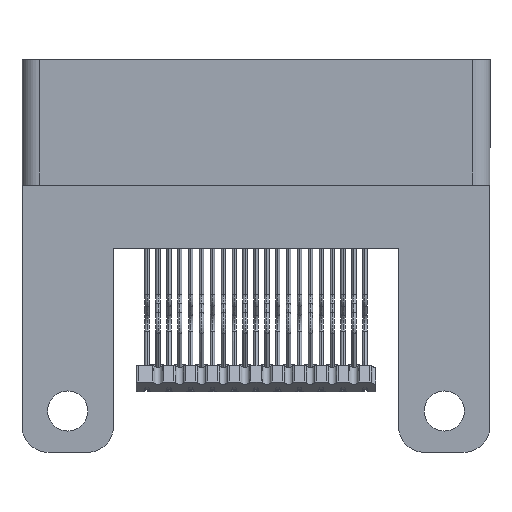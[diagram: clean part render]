
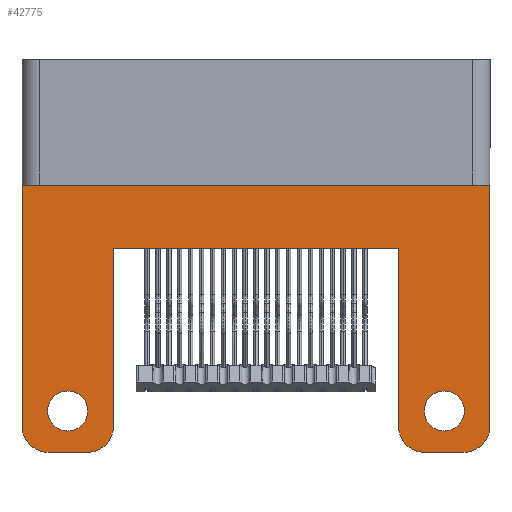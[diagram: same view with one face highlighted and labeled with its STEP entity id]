
A CAD part, front view. The second image highlights one B-rep face of the part: STEP entity #42775.
In plain terms, the highlighted planar face has unit normal (0, -1, 0).
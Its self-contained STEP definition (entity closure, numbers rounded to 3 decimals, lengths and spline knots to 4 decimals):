
#546 = FACE_BOUND ( 'NONE', #25721, .T. ) ;
#568 = FACE_BOUND ( 'NONE', #24560, .T. ) ;
#577 = FACE_OUTER_BOUND ( 'NONE', #25632, .T. ) ;
#1631 = CARTESIAN_POINT ( 'NONE',  ( 0.3275, -0.17, -0.053 ) ) ;
#1632 = DIRECTION ( 'NONE',  ( 1., 0., 0. ) ) ;
#1635 = CARTESIAN_POINT ( 'NONE',  ( -0.4775, -0.17, -0.607 ) ) ;
#1636 = DIRECTION ( 'NONE',  ( 0., -1., 0. ) ) ;
#1637 = DIRECTION ( 'NONE',  ( 0., 0., -1. ) ) ;
#1678 = CARTESIAN_POINT ( 'NONE',  ( -0.5375, -0.17, -0.667 ) ) ;
#1681 = CARTESIAN_POINT ( 'NONE',  ( 0.5375, -0.17, -0.667 ) ) ;
#1683 = CARTESIAN_POINT ( 'NONE',  ( -0.3275, -0.17, -0.667 ) ) ;
#1684 = DIRECTION ( 'NONE',  ( 0., 0., 1. ) ) ;
#1690 = DIRECTION ( 'NONE',  ( 0., 0., 1. ) ) ;
#4257 = VERTEX_POINT ( 'NONE', #6915 ) ;
#4273 = VERTEX_POINT ( 'NONE', #6941 ) ;
#4293 = VERTEX_POINT ( 'NONE', #6973 ) ;
#4312 = VERTEX_POINT ( 'NONE', #7003 ) ;
#4535 = CIRCLE ( 'NONE', #11639, 0.046 ) ;
#4549 = CIRCLE ( 'NONE', #11641, 0.046 ) ;
#6477 = CARTESIAN_POINT ( 'NONE',  ( 0.4325, -0.17, -0.572 ) ) ;
#6478 = DIRECTION ( 'NONE',  ( 0., 1., 0. ) ) ;
#6479 = DIRECTION ( 'NONE',  ( -1., 0., 0. ) ) ;
#6495 = CARTESIAN_POINT ( 'NONE',  ( -0.4325, -0.17, -0.572 ) ) ;
#6496 = DIRECTION ( 'NONE',  ( 0., 1., 0. ) ) ;
#6497 = DIRECTION ( 'NONE',  ( -1., 0., 0. ) ) ;
#6915 = CARTESIAN_POINT ( 'NONE',  ( -0.4785, -0.17, -0.572 ) ) ;
#6941 = CARTESIAN_POINT ( 'NONE',  ( 0.3865, -0.17, -0.572 ) ) ;
#6973 = CARTESIAN_POINT ( 'NONE',  ( -0.3865, -0.17, -0.572 ) ) ;
#7003 = CARTESIAN_POINT ( 'NONE',  ( 0.4785, -0.17, -0.572 ) ) ;
#11639 = AXIS2_PLACEMENT_3D ( 'NONE', #6477, #6478, #6479 ) ;
#11641 = AXIS2_PLACEMENT_3D ( 'NONE', #6495, #6496, #6497 ) ;
#14506 = EDGE_CURVE ( 'NONE', #42571, #42578, #21200, .T. ) ;
#14507 = EDGE_CURVE ( 'NONE', #42576, #42888, #21203, .T. ) ;
#14529 = EDGE_CURVE ( 'NONE', #42889, #42550, #21277, .T. ) ;
#14532 = EDGE_CURVE ( 'NONE', #42576, #42571, #21273, .T. ) ;
#14533 = EDGE_CURVE ( 'NONE', #42556, #42550, #21292, .T. ) ;
#14534 = EDGE_CURVE ( 'NONE', #42882, #42556, #21296, .T. ) ;
#14535 = EDGE_CURVE ( 'NONE', #42867, #42578, #21288, .T. ) ;
#15088 = AXIS2_PLACEMENT_3D ( 'NONE', #1635, #1636, #1637 ) ;
#17056 = CARTESIAN_POINT ( 'NONE',  ( -0.4325, -0.17, -0.572 ) ) ;
#17057 = DIRECTION ( 'NONE',  ( 0., 1., 0. ) ) ;
#17058 = DIRECTION ( 'NONE',  ( -1., 0., 0. ) ) ;
#17062 = CARTESIAN_POINT ( 'NONE',  ( 0.3275, -0.17, -0.667 ) ) ;
#17063 = DIRECTION ( 'NONE',  ( 1., 0., 0. ) ) ;
#17064 = CARTESIAN_POINT ( 'NONE',  ( 0.4325, -0.17, -0.572 ) ) ;
#17065 = DIRECTION ( 'NONE',  ( 0., 1., 0. ) ) ;
#17066 = DIRECTION ( 'NONE',  ( -1., 0., 0. ) ) ;
#17079 = CARTESIAN_POINT ( 'NONE',  ( -0.3875, -0.17, -0.607 ) ) ;
#17080 = DIRECTION ( 'NONE',  ( 0., -1., 0. ) ) ;
#17081 = DIRECTION ( 'NONE',  ( 0., 0., -1. ) ) ;
#17088 = CARTESIAN_POINT ( 'NONE',  ( -0.3275, -0.17, -0.667 ) ) ;
#17089 = DIRECTION ( 'NONE',  ( -1., 0., 0. ) ) ;
#17096 = CARTESIAN_POINT ( 'NONE',  ( 0.3875, -0.17, -0.607 ) ) ;
#17097 = DIRECTION ( 'NONE',  ( 0., -1., 0. ) ) ;
#17098 = DIRECTION ( 'NONE',  ( 0., 0., -1. ) ) ;
#17117 = CARTESIAN_POINT ( 'NONE',  ( 0.4775, -0.17, -0.607 ) ) ;
#17118 = DIRECTION ( 'NONE',  ( 0., -1., 0. ) ) ;
#17119 = DIRECTION ( 'NONE',  ( 0., 0., -1. ) ) ;
#20687 = AXIS2_PLACEMENT_3D ( 'NONE', #17056, #17057, #17058 ) ;
#20691 = AXIS2_PLACEMENT_3D ( 'NONE', #17064, #17065, #17066 ) ;
#20696 = AXIS2_PLACEMENT_3D ( 'NONE', #17079, #17080, #17081 ) ;
#20700 = AXIS2_PLACEMENT_3D ( 'NONE', #17096, #17097, #17098 ) ;
#20706 = AXIS2_PLACEMENT_3D ( 'NONE', #17117, #17118, #17119 ) ;
#21200 = LINE ( 'NONE', #1631, #21205 ) ;
#21203 = CIRCLE ( 'NONE', #15088, 0.06 ) ;
#21205 = VECTOR ( 'NONE', #1632, 39.3701 ) ;
#21273 = LINE ( 'NONE', #1678, #21294 ) ;
#21277 = LINE ( 'NONE', #1683, #21282 ) ;
#21282 = VECTOR ( 'NONE', #1684, 39.3701 ) ;
#21288 = LINE ( 'NONE', #1681, #21308 ) ;
#21292 = LINE ( 'NONE', #33569, #21298 ) ;
#21294 = VECTOR ( 'NONE', #1690, 39.3701 ) ;
#21296 = LINE ( 'NONE', #33573, #21303 ) ;
#21298 = VECTOR ( 'NONE', #33572, 39.3701 ) ;
#21303 = VECTOR ( 'NONE', #33577, 39.3701 ) ;
#21308 = VECTOR ( 'NONE', #33579, 39.3701 ) ;
#21657 = AXIS2_PLACEMENT_3D ( 'NONE', #44400, #44402, #44403 ) ;
#21965 = ORIENTED_EDGE ( 'NONE', *, *, #14532, .F. ) ;
#21966 = ORIENTED_EDGE ( 'NONE', *, *, #14507, .T. ) ;
#21967 = ORIENTED_EDGE ( 'NONE', *, *, #34513, .F. ) ;
#21969 = ORIENTED_EDGE ( 'NONE', *, *, #34509, .T. ) ;
#21971 = ORIENTED_EDGE ( 'NONE', *, *, #14529, .T. ) ;
#21973 = ORIENTED_EDGE ( 'NONE', *, *, #14533, .F. ) ;
#21974 = ORIENTED_EDGE ( 'NONE', *, *, #14534, .F. ) ;
#21977 = ORIENTED_EDGE ( 'NONE', *, *, #34516, .T. ) ;
#21979 = ORIENTED_EDGE ( 'NONE', *, *, #34505, .T. ) ;
#21981 = ORIENTED_EDGE ( 'NONE', *, *, #34526, .T. ) ;
#21983 = ORIENTED_EDGE ( 'NONE', *, *, #14535, .T. ) ;
#21985 = ORIENTED_EDGE ( 'NONE', *, *, #14506, .F. ) ;
#21987 = ORIENTED_EDGE ( 'NONE', *, *, #34503, .T. ) ;
#21989 = ORIENTED_EDGE ( 'NONE', *, *, #30503, .T. ) ;
#21991 = ORIENTED_EDGE ( 'NONE', *, *, #34500, .T. ) ;
#21993 = ORIENTED_EDGE ( 'NONE', *, *, #30511, .T. ) ;
#23145 = CARTESIAN_POINT ( 'NONE',  ( -0.3275, -0.17, -0.198 ) ) ;
#24560 = EDGE_LOOP ( 'NONE', ( #21991, #21993 ) ) ;
#25632 = EDGE_LOOP ( 'NONE', ( #21965, #21966, #21967, #21969, #21971, #21973, #21974, #21977, #21979, #21981, #21983, #21985 ) ) ;
#25721 = EDGE_LOOP ( 'NONE', ( #21987, #21989 ) ) ;
#27060 = CIRCLE ( 'NONE', #20687, 0.046 ) ;
#27066 = CIRCLE ( 'NONE', #20691, 0.046 ) ;
#27070 = LINE ( 'NONE', #17062, #27074 ) ;
#27074 = VECTOR ( 'NONE', #17063, 39.3701 ) ;
#27084 = CIRCLE ( 'NONE', #20696, 0.06 ) ;
#27096 = LINE ( 'NONE', #17088, #27102 ) ;
#27102 = VECTOR ( 'NONE', #17089, 39.3701 ) ;
#27108 = CIRCLE ( 'NONE', #20700, 0.06 ) ;
#27144 = CIRCLE ( 'NONE', #20706, 0.06 ) ;
#30503 = EDGE_CURVE ( 'NONE', #4312, #4273, #4535, .T. ) ;
#30511 = EDGE_CURVE ( 'NONE', #4293, #4257, #4549, .T. ) ;
#33569 = CARTESIAN_POINT ( 'NONE',  ( 0.34, -0.17, -0.198 ) ) ;
#33572 = DIRECTION ( 'NONE',  ( -1., 0., 0. ) ) ;
#33573 = CARTESIAN_POINT ( 'NONE',  ( 0.3275, -0.17, -0.667 ) ) ;
#33577 = DIRECTION ( 'NONE',  ( 0., 0., 1. ) ) ;
#33579 = DIRECTION ( 'NONE',  ( 0., 0., 1. ) ) ;
#34500 = EDGE_CURVE ( 'NONE', #4257, #4293, #27060, .T. ) ;
#34503 = EDGE_CURVE ( 'NONE', #4273, #4312, #27066, .T. ) ;
#34505 = EDGE_CURVE ( 'NONE', #42898, #42896, #27070, .T. ) ;
#34509 = EDGE_CURVE ( 'NONE', #42904, #42889, #27084, .T. ) ;
#34513 = EDGE_CURVE ( 'NONE', #42904, #42888, #27096, .T. ) ;
#34516 = EDGE_CURVE ( 'NONE', #42882, #42898, #27108, .T. ) ;
#34526 = EDGE_CURVE ( 'NONE', #42896, #42867, #27144, .T. ) ;
#38208 = CARTESIAN_POINT ( 'NONE',  ( 0.3275, -0.17, -0.198 ) ) ;
#38263 = CARTESIAN_POINT ( 'NONE',  ( -0.5375, -0.17, -0.053 ) ) ;
#38277 = CARTESIAN_POINT ( 'NONE',  ( 0.5375, -0.17, -0.053 ) ) ;
#38278 = CARTESIAN_POINT ( 'NONE',  ( -0.5375, -0.17, -0.607 ) ) ;
#42550 = VERTEX_POINT ( 'NONE', #23145 ) ;
#42556 = VERTEX_POINT ( 'NONE', #38208 ) ;
#42571 = VERTEX_POINT ( 'NONE', #38263 ) ;
#42576 = VERTEX_POINT ( 'NONE', #38278 ) ;
#42578 = VERTEX_POINT ( 'NONE', #38277 ) ;
#42775 = ADVANCED_FACE ( 'NONE', ( #577, #546, #568 ), #44396, .T. ) ;
#42867 = VERTEX_POINT ( 'NONE', #44599 ) ;
#42882 = VERTEX_POINT ( 'NONE', #44635 ) ;
#42888 = VERTEX_POINT ( 'NONE', #44644 ) ;
#42889 = VERTEX_POINT ( 'NONE', #44649 ) ;
#42896 = VERTEX_POINT ( 'NONE', #44663 ) ;
#42898 = VERTEX_POINT ( 'NONE', #44661 ) ;
#42904 = VERTEX_POINT ( 'NONE', #44680 ) ;
#44396 = PLANE ( 'NONE',  #21657 ) ;
#44400 = CARTESIAN_POINT ( 'NONE',  ( 0.3275, -0.17, -0.667 ) ) ;
#44402 = DIRECTION ( 'NONE',  ( 0., -1., 0. ) ) ;
#44403 = DIRECTION ( 'NONE',  ( 0., 0., -1. ) ) ;
#44599 = CARTESIAN_POINT ( 'NONE',  ( 0.5375, -0.17, -0.607 ) ) ;
#44635 = CARTESIAN_POINT ( 'NONE',  ( 0.3275, -0.17, -0.607 ) ) ;
#44644 = CARTESIAN_POINT ( 'NONE',  ( -0.4775, -0.17, -0.667 ) ) ;
#44649 = CARTESIAN_POINT ( 'NONE',  ( -0.3275, -0.17, -0.607 ) ) ;
#44661 = CARTESIAN_POINT ( 'NONE',  ( 0.3875, -0.17, -0.667 ) ) ;
#44663 = CARTESIAN_POINT ( 'NONE',  ( 0.4775, -0.17, -0.667 ) ) ;
#44680 = CARTESIAN_POINT ( 'NONE',  ( -0.3875, -0.17, -0.667 ) ) ;
